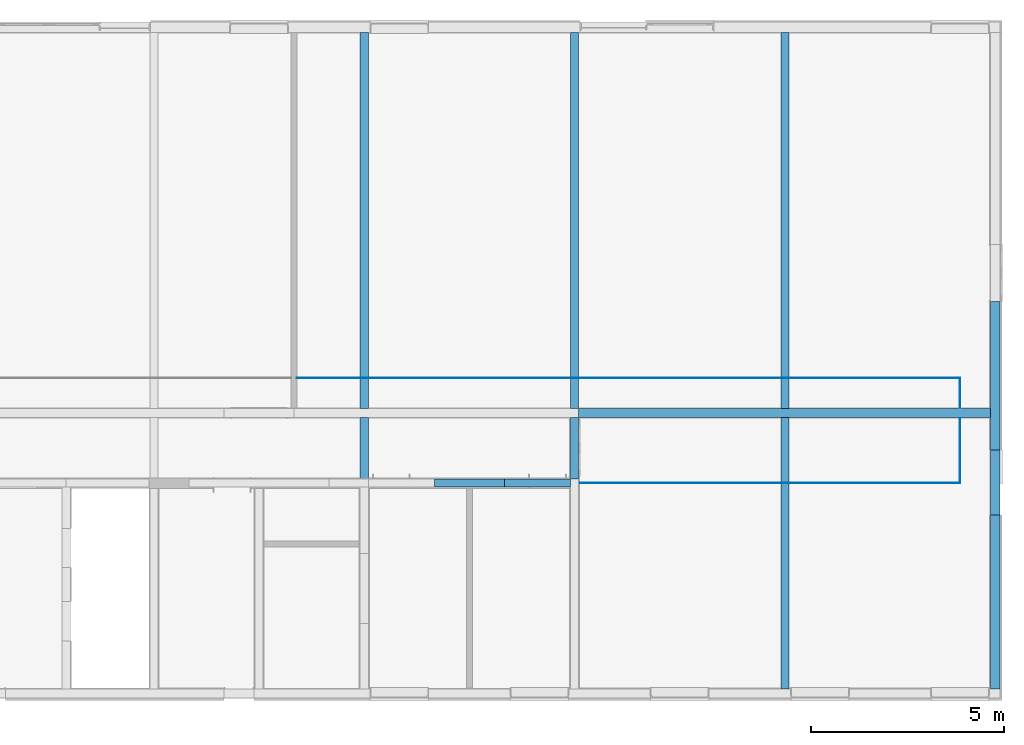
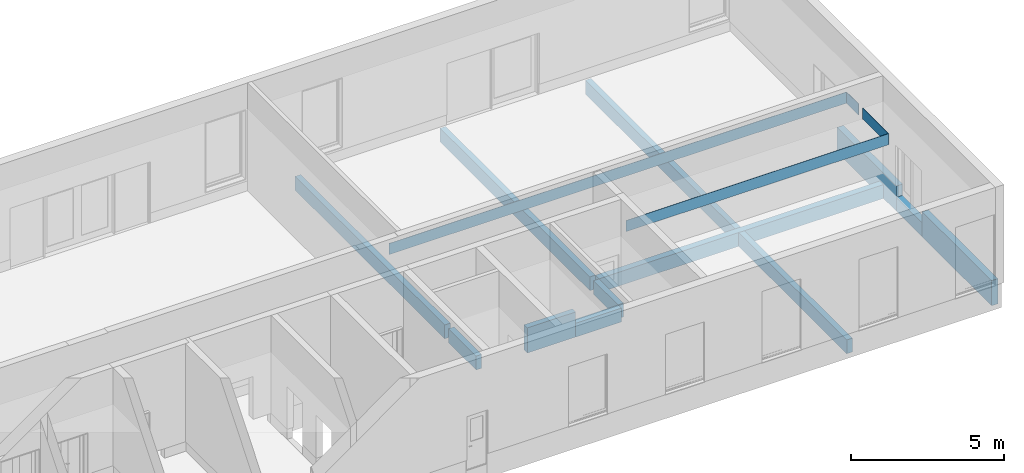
# One storey, part 17 of 22: 13 walls, 3 openings.
"""IFC4X3 building model written with IfcOpenShell, lengths in millimetres."""

from ifc_helpers import new_model, entity, si_unit, converted_unit, derived_unit, direction, frame, frame_2d, origin, origin_2d_with_axis, place, context, subcontext, project, spatial, rectangle, extrude, material, layer, layer_set, type_object, element, save


model = new_model("IFC4X3")

# Units and contexts
model_context = context("Model", 3, precision=0.01, world=origin(), true_north=direction((6.12303176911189e-17, 1.0)))
body_context = subcontext(model_context, "Body", "Model", "MODEL_VIEW")
ifc_project = project(units=[si_unit("LENGTHUNIT", "METRE", prefix="MILLI"), si_unit("AREAUNIT", "SQUARE_METRE"), si_unit("VOLUMEUNIT", "CUBIC_METRE"), converted_unit("PLANEANGLEUNIT", "DEGREE", entity("IfcPlaneAngleMeasure", 0.0174532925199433), si_unit("PLANEANGLEUNIT", "RADIAN"), dimensions=[0, 0, 0, 0, 0, 0, 0]), si_unit("MASSUNIT", "GRAM", prefix="KILO"), derived_unit("MASSDENSITYUNIT", [(si_unit("MASSUNIT", "GRAM", prefix="KILO"), 1), (si_unit("LENGTHUNIT", "METRE"), -3)]), derived_unit("IONCONCENTRATIONUNIT", [(si_unit("MASSUNIT", "GRAM", prefix="KILO"), 1), (si_unit("LENGTHUNIT", "METRE"), -3)]), derived_unit("MOMENTOFINERTIAUNIT", [(si_unit("LENGTHUNIT", "METRE"), 4)]), si_unit("TIMEUNIT", "SECOND"), si_unit("FREQUENCYUNIT", "HERTZ"), si_unit("THERMODYNAMICTEMPERATUREUNIT", "DEGREE_CELSIUS"), derived_unit("THERMALTRANSMITTANCEUNIT", [(si_unit("MASSUNIT", "GRAM", prefix="KILO"), 1), (si_unit("THERMODYNAMICTEMPERATUREUNIT", "KELVIN"), -1), (si_unit("TIMEUNIT", "SECOND"), -3)]), derived_unit("THERMALCONDUCTANCEUNIT", [(si_unit("MASSUNIT", "GRAM", prefix="KILO"), 1), (si_unit("THERMODYNAMICTEMPERATUREUNIT", "KELVIN"), -1), (si_unit("TIMEUNIT", "SECOND"), -3), (si_unit("LENGTHUNIT", "METRE"), 1)]), derived_unit("VOLUMETRICFLOWRATEUNIT", [(si_unit("LENGTHUNIT", "METRE", prefix="DECI"), 3), (si_unit("TIMEUNIT", "SECOND"), -1)]), derived_unit("MASSFLOWRATEUNIT", [(si_unit("MASSUNIT", "GRAM", prefix="KILO"), 1), (si_unit("TIMEUNIT", "SECOND"), -1)]), derived_unit("ROTATIONALFREQUENCYUNIT", [(si_unit("TIMEUNIT", "SECOND"), -1)]), si_unit("ELECTRICCURRENTUNIT", "AMPERE"), si_unit("ELECTRICVOLTAGEUNIT", "VOLT"), si_unit("POWERUNIT", "WATT"), si_unit("FORCEUNIT", "NEWTON", prefix="KILO"), si_unit("ILLUMINANCEUNIT", "LUX"), si_unit("LUMINOUSFLUXUNIT", "LUMEN"), si_unit("LUMINOUSINTENSITYUNIT", "CANDELA"), si_unit("ENERGYUNIT", "JOULE"), derived_unit("USERDEFINED", [(si_unit("MASSUNIT", "GRAM", prefix="KILO"), -1), (si_unit("LENGTHUNIT", "METRE"), -2), (si_unit("TIMEUNIT", "SECOND"), 3), (si_unit("LUMINOUSFLUXUNIT", "LUMEN"), 1)]), derived_unit("USERDEFINED", [(si_unit("MASSUNIT", "GRAM", prefix="KILO"), 1), (si_unit("TIMEUNIT", "SECOND"), -3), (si_unit("LENGTHUNIT", "METRE"), 3), (si_unit("ELECTRICCURRENTUNIT", "AMPERE"), -2)]), derived_unit("SOUNDPOWERUNIT", [(si_unit("MASSUNIT", "GRAM", prefix="KILO"), 1), (si_unit("TIMEUNIT", "SECOND"), -3), (si_unit("LENGTHUNIT", "METRE"), 2)]), derived_unit("SOUNDPRESSUREUNIT", [(si_unit("MASSUNIT", "GRAM", prefix="KILO"), 1), (si_unit("LENGTHUNIT", "METRE"), -1), (si_unit("TIMEUNIT", "SECOND"), -2)]), derived_unit("LINEARVELOCITYUNIT", [(si_unit("LENGTHUNIT", "METRE"), 1), (si_unit("TIMEUNIT", "SECOND"), -1)]), si_unit("PRESSUREUNIT", "PASCAL"), derived_unit("USERDEFINED", [(si_unit("MASSUNIT", "GRAM", prefix="KILO"), 1), (si_unit("LENGTHUNIT", "METRE"), -2), (si_unit("TIMEUNIT", "SECOND"), -2)]), derived_unit("LINEARFORCEUNIT", [(si_unit("MASSUNIT", "GRAM", prefix="KILO"), 1), (si_unit("TIMEUNIT", "SECOND"), -2)]), derived_unit("PLANARFORCEUNIT", [(si_unit("MASSUNIT", "GRAM", prefix="KILO"), 1), (si_unit("LENGTHUNIT", "METRE"), -1), (si_unit("TIMEUNIT", "SECOND"), -2)]), derived_unit("SPECIFICHEATCAPACITYUNIT", [(si_unit("THERMODYNAMICTEMPERATUREUNIT", "KELVIN"), -1), (si_unit("LENGTHUNIT", "METRE"), 2), (si_unit("TIMEUNIT", "SECOND"), -2)]), derived_unit("HEATFLUXDENSITYUNIT", [(si_unit("MASSUNIT", "GRAM", prefix="KILO"), 1), (si_unit("TIMEUNIT", "SECOND"), -3)]), derived_unit("HEATINGVALUEUNIT", [(si_unit("LENGTHUNIT", "METRE"), 2), (si_unit("TIMEUNIT", "SECOND"), -2)]), derived_unit("VAPORPERMEABILITYUNIT", [(si_unit("LENGTHUNIT", "METRE"), -1), (si_unit("TIMEUNIT", "SECOND"), 1)]), derived_unit("DYNAMICVISCOSITYUNIT", [(si_unit("MASSUNIT", "GRAM", prefix="KILO"), 1), (si_unit("TIMEUNIT", "SECOND"), -1), (si_unit("LENGTHUNIT", "METRE"), -1)]), derived_unit("THERMALEXPANSIONCOEFFICIENTUNIT", [(si_unit("THERMODYNAMICTEMPERATUREUNIT", "KELVIN"), -1)]), derived_unit("MODULUSOFELASTICITYUNIT", [(si_unit("MASSUNIT", "GRAM", prefix="KILO"), 1), (si_unit("LENGTHUNIT", "METRE"), -1), (si_unit("TIMEUNIT", "SECOND"), -2)]), derived_unit("ISOTHERMALMOISTURECAPACITYUNIT", [(si_unit("MASSUNIT", "GRAM", prefix="KILO"), -1), (si_unit("LENGTHUNIT", "METRE"), 3)]), derived_unit("MOISTUREDIFFUSIVITYUNIT", [(si_unit("TIMEUNIT", "SECOND"), -1), (si_unit("LENGTHUNIT", "METRE"), 2)]), derived_unit("AREADENSITYUNIT", [(si_unit("MASSUNIT", "GRAM", prefix="KILO"), 1), (si_unit("LENGTHUNIT", "METRE"), 2)]), derived_unit("MASSPERLENGTHUNIT", [(si_unit("MASSUNIT", "GRAM", prefix="KILO"), 1), (si_unit("LENGTHUNIT", "METRE"), -1)]), derived_unit("THERMALRESISTANCEUNIT", [(si_unit("MASSUNIT", "GRAM", prefix="KILO"), -1), (si_unit("TIMEUNIT", "SECOND"), 3), (si_unit("THERMODYNAMICTEMPERATUREUNIT", "KELVIN"), 1)]), derived_unit("ACCELERATIONUNIT", [(si_unit("LENGTHUNIT", "METRE"), 1), (si_unit("TIMEUNIT", "SECOND"), -2)]), derived_unit("ANGULARVELOCITYUNIT", [(si_unit("TIMEUNIT", "SECOND"), -1), (si_unit("PLANEANGLEUNIT", "RADIAN"), 1)]), derived_unit("LINEARSTIFFNESSUNIT", [(si_unit("MASSUNIT", "GRAM", prefix="KILO"), 1), (si_unit("TIMEUNIT", "SECOND"), -2)]), derived_unit("WARPINGCONSTANTUNIT", [(si_unit("LENGTHUNIT", "METRE"), 6)]), derived_unit("LINEARMOMENTUNIT", [(si_unit("MASSUNIT", "GRAM", prefix="KILO"), 1), (si_unit("LENGTHUNIT", "METRE"), 1), (si_unit("TIMEUNIT", "SECOND"), -2)]), derived_unit("TORQUEUNIT", [(si_unit("MASSUNIT", "GRAM", prefix="KILO"), 1), (si_unit("LENGTHUNIT", "METRE"), 2), (si_unit("TIMEUNIT", "SECOND"), -2)])], contexts=[model_context])

# Site, building, storey
site_placement = place(None, origin())
site = spatial("IfcSite", under=ifc_project, at=site_placement, Name="Default", CompositionType="ELEMENT")
building_placement = place(site_placement, origin())
building = spatial("IfcBuilding", under=site, at=building_placement, Name="事務所ビル", CompositionType="ELEMENT")
storey_placement = place(building_placement, origin())
storey = spatial("IfcBuildingStorey", under=building, at=storey_placement, Name="1FL", CompositionType="ELEMENT", Elevation=0.0)

# Walls
ifc_material_1 = material(Name="*コンクリート")
ifc_layer_1 = layer(ifc_material_1, 240.0, Name="*コンクリート")
ifc_layer_set_1 = layer_set([ifc_layer_1], Name="標準壁:(基礎梁)RC_w240h1000")
wall_type_1 = type_object("IfcWallType", Name="標準壁:(基礎梁)RC_w240h1000", PredefinedType="STANDARD", material=ifc_layer_set_1)
wall_1_placement = place(storey_placement, frame((49140.0, 120.0, -600.0), z_axis=(0.0, 0.0, 1.0), x_axis=(0.0, 1.0, 0.0)))
element("IfcWall", 1, at=wall_1_placement, inside=storey, type_object=wall_type_1, material=ifc_layer_set_1, Name="標準壁:(基礎梁)RC_w240h1000", ObjectType="標準壁:(基礎梁)RC_w240h1000", PredefinedType="NOTDEFINED", context=body_context, shape_type="SweptSolid", body=[
    extrude(rectangle(XDim=4520.0, YDim=239.999999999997, at=frame_2d((2260.0, -2.1316282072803e-14), x_axis=(-1.0, 0.0))), origin(), (0.0, 0.0, 1.0), 1000.0),
])
wall_2_placement = place(storey_placement, frame((49140.0, 6320.0, -600.0), z_axis=(0.0, 0.0, 1.0), x_axis=(0.0, 1.0, 0.0)))
element("IfcWall", 2, at=wall_2_placement, inside=storey, type_object=wall_type_1, material=ifc_layer_set_1, Name="標準壁:(基礎梁)RC_w240h1000", ObjectType="標準壁:(基礎梁)RC_w240h1000", PredefinedType="NOTDEFINED", context=body_context, shape_type="SweptSolid", body=[
    extrude(rectangle(XDim=3860.0, YDim=239.999999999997, at=frame_2d((1930.0, 0.0), x_axis=(-1.0, 0.0))), origin(), (0.0, 0.0, 1.0), 1000.0),
])
ifc_layer_2 = layer(ifc_material_1, 240.0, Name="*コンクリート")
ifc_layer_set_2 = layer_set([ifc_layer_2], Name="標準壁:(基礎梁)RC_w240h650")
wall_type_2 = type_object("IfcWallType", Name="標準壁:(基礎梁)RC_w240h650", PredefinedType="STANDARD", material=ifc_layer_set_2)
wall_3_placement = place(storey_placement, frame((49140.0, 4640.0, -600.0), z_axis=(0.0, 0.0, 1.0), x_axis=(0.0, 1.0, 0.0)))
element("IfcWall", 3, at=wall_3_placement, inside=storey, type_object=wall_type_2, material=ifc_layer_set_2, Name="標準壁:(基礎梁)RC_w240h650", ObjectType="標準壁:(基礎梁)RC_w240h650", PredefinedType="NOTDEFINED", context=body_context, shape_type="SweptSolid", body=[
    extrude(rectangle(XDim=1680.0, YDim=239.999999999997, at=frame_2d((840.000000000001, -3.26849658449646e-13), x_axis=(-1.0, 0.0))), origin(), (0.0, 0.0, 1.0), 550.0),
])
wall_4_placement = place(storey_placement, frame((38325.0, 7280.0, -600.0)))
element("IfcWall", 4, at=wall_4_placement, inside=storey, type_object=wall_type_2, material=ifc_layer_set_2, Name="標準壁:(基礎梁)RC_w240h650", ObjectType="標準壁:(基礎梁)RC_w240h650", PredefinedType="NOTDEFINED", context=body_context, shape_type="SweptSolid", body=[
    extrude(rectangle(XDim=10695.0, YDim=240.0, at=frame_2d((5347.5, -3.69482222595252e-13), x_axis=(-1.0, 0.0))), origin(), (0.0, 0.0, 1.0), 550.0),
])

# Wall, opening
ifc_layer_3 = layer(ifc_material_1, 210.0, Name="*コンクリート")
ifc_layer_set_3 = layer_set([ifc_layer_3], Name="標準壁:(基礎梁)RC_w210h650")
wall_type_3 = type_object("IfcWallType", Name="標準壁:(基礎梁)RC_w210h650", PredefinedType="STANDARD", material=ifc_layer_set_3)
wall_5_placement = place(storey_placement, frame((43680.0, 120.0, -600.0), z_axis=(0.0, 0.0, 1.0), x_axis=(0.0, 1.0, 0.0)))
wall_5 = element("IfcWall", 5, at=wall_5_placement, inside=storey, type_object=wall_type_3, material=ifc_layer_set_3, Name="標準壁:(基礎梁)RC_w210h650", ObjectType="標準壁:(基礎梁)RC_w210h650", PredefinedType="NOTDEFINED", context=body_context, shape_type="SweptSolid", body=[
    extrude(rectangle(XDim=17035.0, YDim=210.000000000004, at=frame_2d((8517.5, -1.91846538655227e-13), x_axis=(-1.0, 0.0))), origin(), (0.0, 0.0, 1.0), 550.0),
])
opening_1_placement = place(storey_placement, frame((43680.0, 120.0, -600.0), z_axis=(0.0, 0.0, 1.0), x_axis=(0.0, 1.0, 0.0)))
element("IfcOpeningElement", 6, at=opening_1_placement, cuts=wall_5, Name="標準壁:(基礎梁)RC_w210h650:1", PredefinedType="OPENING", context=body_context, shape_type="SweptSolid", body=[
    extrude(rectangle(XDim=550.0, YDim=210.000000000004, at=origin_2d_with_axis()), frame((7040.0, 0.0, 275.0), z_axis=(1.0, 0.0, 0.0), x_axis=(0.0, 0.0, -1.0)), (0.0, 0.0, 1.0), 240.0),
])

# Wall
wall_6_placement = place(storey_placement, frame((38220.0, 5565.0, -600.0), z_axis=(0.0, 0.0, 1.0), x_axis=(0.0, 1.0, 0.0)))
element("IfcWall", 7, at=wall_6_placement, inside=storey, type_object=wall_type_3, material=ifc_layer_set_3, Name="標準壁:(基礎梁)RC_w210h650", ObjectType="標準壁:(基礎梁)RC_w210h650", PredefinedType="NOTDEFINED", context=body_context, shape_type="SweptSolid", body=[
    extrude(rectangle(XDim=1595.0, YDim=210.000000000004, at=frame_2d((797.5, -9.9475983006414e-13), x_axis=(-1.0, 0.0))), origin(), (0.0, 0.0, 1.0), 550.0),
])

# Wall, opening
wall_7_placement = place(storey_placement, frame((32760.0, 5355.0, -600.0), z_axis=(0.0, 0.0, 1.0), x_axis=(0.0, 1.0, 0.0)))
wall_7 = element("IfcWall", 8, at=wall_7_placement, inside=storey, type_object=wall_type_3, material=ifc_layer_set_3, Name="標準壁:(基礎梁)RC_w210h650", ObjectType="標準壁:(基礎梁)RC_w210h650", PredefinedType="NOTDEFINED", context=body_context, shape_type="SweptSolid", body=[
    extrude(rectangle(XDim=11800.0, YDim=210.000000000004, at=frame_2d((5900.0, -2.1316282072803e-14), x_axis=(-1.0, 0.0))), origin(), (0.0, 0.0, 1.0), 550.0),
])
opening_2_placement = place(storey_placement, frame((32760.0, 5355.0, -600.0), z_axis=(0.0, 0.0, 1.0), x_axis=(0.0, 1.0, 0.0)))
element("IfcOpeningElement", 9, at=opening_2_placement, cuts=wall_7, Name="標準壁:(基礎梁)RC_w210h650:1", PredefinedType="OPENING", context=body_context, shape_type="SweptSolid", body=[
    extrude(rectangle(XDim=550.0, YDim=210.0, at=frame_2d((0.0, 2.16715534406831e-12), x_axis=(1.0, 0.0))), frame((1805.0, 0.0, 275.0), z_axis=(1.0, 0.0, 0.0), x_axis=(0.0, 0.0, -1.0)), (0.0, 0.0, 1.0), 240.0),
])

# Walls
wall_8_placement = place(storey_placement, frame((36400.0, 5460.0, -600.0)))
element("IfcWall", 10, at=wall_8_placement, inside=storey, type_object=wall_type_3, material=ifc_layer_set_3, Name="標準壁:(基礎梁)RC_w210h650", ObjectType="標準壁:(基礎梁)RC_w210h650", PredefinedType="NOTDEFINED", context=body_context, shape_type="SweptSolid", body=[
    extrude(rectangle(XDim=1715.0, YDim=210.0, at=frame_2d((857.5, -1.56319401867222e-13), x_axis=(-1.0, 0.0))), origin(), (0.0, 0.0, 1.0), 550.0),
])
wall_9_placement = place(storey_placement, frame((38220.0, 7400.0, -600.0), z_axis=(0.0, 0.0, 1.0), x_axis=(0.0, 1.0, 0.0)))
element("IfcWall", 11, at=wall_9_placement, inside=storey, type_object=wall_type_3, material=ifc_layer_set_3, Name="標準壁:(基礎梁)RC_w210h650", ObjectType="標準壁:(基礎梁)RC_w210h650", PredefinedType="NOTDEFINED", context=body_context, shape_type="SweptSolid", body=[
    extrude(rectangle(XDim=9755.0, YDim=210.000000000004, at=frame_2d((4877.5, 6.46593889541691e-13), x_axis=(-1.0, 0.0))), origin(), (0.0, 0.0, 1.0), 550.0),
])
ifc_layer_4 = layer(ifc_material_1, 210.0, Name="*コンクリート")
ifc_layer_set_4 = layer_set([ifc_layer_4], Name="標準壁:(基礎梁)RC_w210h1000")
wall_type_4 = type_object("IfcWallType", Name="標準壁:(基礎梁)RC_w210h1000", PredefinedType="STANDARD", material=ifc_layer_set_4)
wall_10_placement = place(storey_placement, frame((34580.0, 5460.0, -600.0)))
element("IfcWall", 12, at=wall_10_placement, inside=storey, type_object=wall_type_4, material=ifc_layer_set_4, Name="標準壁:(基礎梁)RC_w210h1000", ObjectType="標準壁:(基礎梁)RC_w210h1000", PredefinedType="NOTDEFINED", context=body_context, shape_type="SweptSolid", body=[
    extrude(rectangle(XDim=1819.99999999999, YDim=210.0, at=frame_2d((909.999999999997, 0.0), x_axis=(-1.0, 0.0))), origin(), (0.0, 0.0, 1.0), 1000.0),
])
ifc_material_2 = material(Name="<Unnamed>")
ifc_layer_5 = layer(ifc_material_2, 15.0, Name="Layer")
ifc_layer_set_5 = layer_set([ifc_layer_5], Name="標準壁:GB-R15")
wall_type_5 = type_object("IfcWallType", Name="標準壁:GB-R15", PredefinedType="STANDARD", material=ifc_layer_set_5)
wall_11_placement = place(storey_placement, frame((31015.0, 8190.0, 2850.0)))
element("IfcWall", 13, at=wall_11_placement, inside=storey, type_object=wall_type_5, material=ifc_layer_set_5, Name="標準壁:GB-R15", ObjectType="標準壁:GB-R15", PredefinedType="NOTDEFINED", context=body_context, shape_type="SweptSolid", body=[
    extrude(rectangle(XDim=17222.5, YDim=15.0000000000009, at=frame_2d((8611.25, 1.19904086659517e-14), x_axis=(-1.0, 0.0))), origin(), (0.0, 0.0, 1.0), 440.0),
])

# Wall, opening
wall_12_placement = place(storey_placement, frame((48230.0, 8182.4999999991, 2850.0), z_axis=(0.0, 0.0, 1.0), x_axis=(0.0, -1.0, 0.0)))
wall_12 = element("IfcWall", 14, at=wall_12_placement, inside=storey, type_object=wall_type_5, material=ifc_layer_set_5, Name="標準壁:GB-R15", ObjectType="標準壁:GB-R15", PredefinedType="NOTDEFINED", context=body_context, shape_type="SweptSolid", body=[
    extrude(rectangle(XDim=2729.99999999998, YDim=14.9999999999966, at=frame_2d((1364.99999999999, 0.0), x_axis=(-1.0, 0.0))), origin(), (0.0, 0.0, 1.0), 440.0),
])
opening_3_placement = place(storey_placement, frame((48230.0, 8182.4999999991, 2850.0), z_axis=(0.0, 0.0, 1.0), x_axis=(0.0, -1.0, 0.0)))
element("IfcOpeningElement", 15, at=opening_3_placement, cuts=wall_12, Name="標準壁:GB-R15:1", PredefinedType="OPENING", context=body_context, shape_type="SweptSolid", body=[
    extrude(rectangle(XDim=440.0, YDim=14.9999999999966, at=frame_2d((-2.70006239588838e-13, 0.0), x_axis=(1.0, 0.0))), frame((1034.49999999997, 0.0, 220.0), z_axis=(-1.0, 0.0, 0.0), x_axis=(0.0, 0.0, 1.0)), (0.0, 0.0, 1.0), 264.0),
])

# Wall
wall_13_placement = place(storey_placement, frame((48222.5, 5460.0, 2850.0), z_axis=(0.0, 0.0, 1.0), x_axis=(-1.0, 0.0, 0.0)))
element("IfcWall", 16, at=wall_13_placement, inside=storey, type_object=wall_type_5, material=ifc_layer_set_5, Name="標準壁:GB-R15", ObjectType="標準壁:GB-R15", PredefinedType="NOTDEFINED", context=body_context, shape_type="SweptSolid", body=[
    extrude(rectangle(XDim=9870.49999999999, YDim=15.0000000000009, at=frame_2d((4935.24999999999, -1.24344978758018e-14), x_axis=(-1.0, 0.0))), origin(), (0.0, 0.0, 1.0), 440.0),
])

save(model, "model.ifc")
